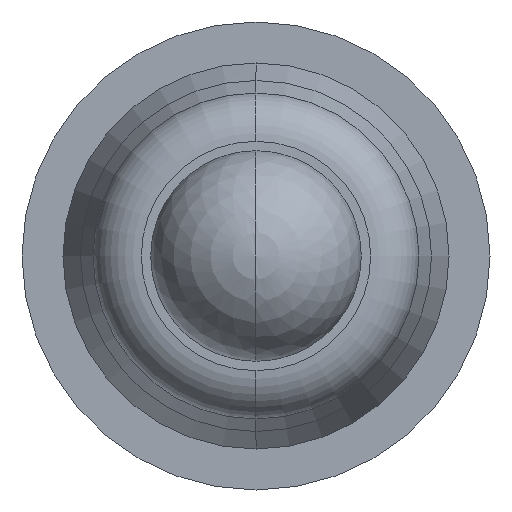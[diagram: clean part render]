
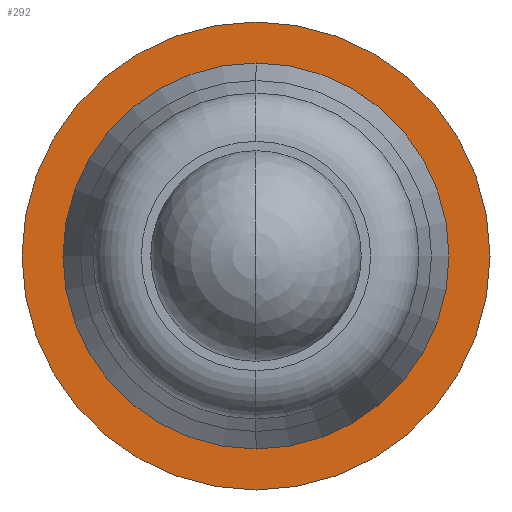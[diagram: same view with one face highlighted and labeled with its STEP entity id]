
A CAD part, left-side view. The second image highlights one B-rep face of the part: STEP entity #292.
In plain terms, the highlighted planar face has unit normal (-1, 0, 0).
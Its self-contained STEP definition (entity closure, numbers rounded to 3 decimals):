
#19=CARTESIAN_POINT('',(-0.5,0.,0.));
#20=DIRECTION('',(-1.,0.,0.));
#21=DIRECTION('',(0.,0.,-1.));
#22=AXIS2_PLACEMENT_3D('',#19,#20,#21);
#24=CARTESIAN_POINT('',(-0.5,0.,0.));
#25=DIRECTION('',(1.,0.,0.));
#26=DIRECTION('',(0.,0.,-1.));
#27=AXIS2_PLACEMENT_3D('',#24,#25,#26);
#29=CARTESIAN_POINT('',(-0.5,0.,0.));
#30=DIRECTION('',(1.,0.,0.));
#31=DIRECTION('',(0.,0.,-1.));
#32=AXIS2_PLACEMENT_3D('',#29,#30,#31);
#42=CARTESIAN_POINT('',(-0.5,0.,0.));
#43=DIRECTION('',(-1.,0.,0.));
#44=DIRECTION('',(0.,0.,-1.));
#45=AXIS2_PLACEMENT_3D('',#42,#43,#44);
#198=CARTESIAN_POINT('',(-0.5,0.,-1.));
#200=VERTEX_POINT('',#198);
#201=CARTESIAN_POINT('',(-0.5,0.,-0.75));
#203=VERTEX_POINT('',#201);
#224=CARTESIAN_POINT('',(-0.5,0.,1.));
#226=VERTEX_POINT('',#224);
#227=CARTESIAN_POINT('',(-0.5,0.,0.75));
#229=VERTEX_POINT('',#227);
#277=CARTESIAN_POINT('',(-0.5,0.,0.));
#278=DIRECTION('',(1.,0.,0.));
#279=DIRECTION('',(0.,0.,1.));
#280=AXIS2_PLACEMENT_3D('',#277,#278,#279);
#281=PLANE('',#280);
#282=ORIENTED_EDGE('',*,*,#269,.F.);
#283=ORIENTED_EDGE('',*,*,#258,.T.);
#284=EDGE_LOOP('',(#282,#283));
#285=FACE_OUTER_BOUND('',#284,.F.);
#287=ORIENTED_EDGE('',*,*,#286,.F.);
#289=ORIENTED_EDGE('',*,*,#288,.T.);
#290=EDGE_LOOP('',(#287,#289));
#291=FACE_BOUND('',#290,.F.);
#292=ADVANCED_FACE('',(#285,#291),#281,.F.);
#23=CIRCLE('',#22,1.);
#28=CIRCLE('',#27,1.);
#33=CIRCLE('',#32,0.75);
#46=CIRCLE('',#45,0.75);
#258=EDGE_CURVE('',#200,#226,#28,.T.);
#269=EDGE_CURVE('',#200,#226,#23,.T.);
#286=EDGE_CURVE('',#203,#229,#33,.T.);
#288=EDGE_CURVE('',#203,#229,#46,.T.);
